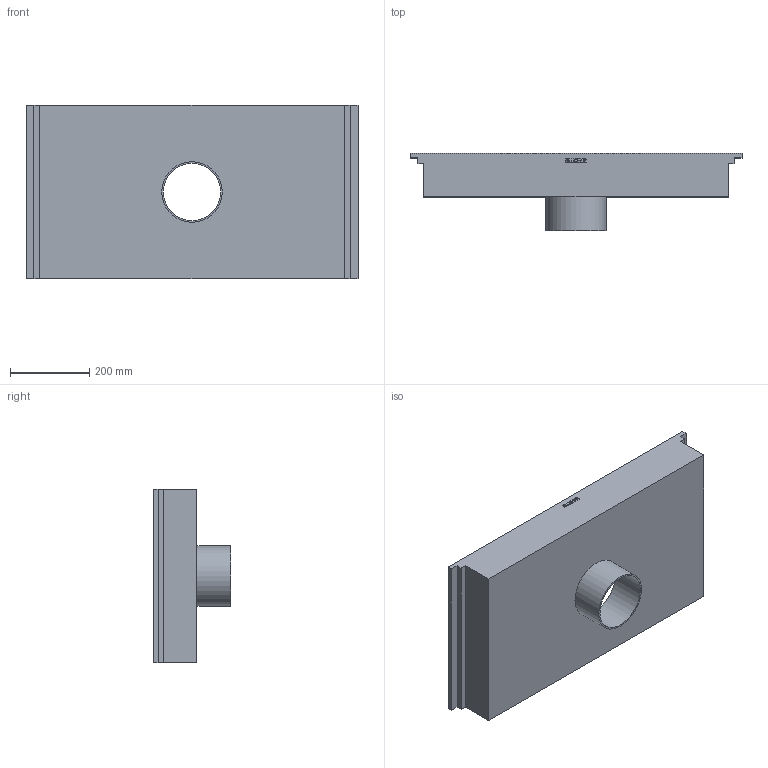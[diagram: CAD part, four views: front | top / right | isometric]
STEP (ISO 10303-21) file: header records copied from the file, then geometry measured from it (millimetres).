
FILE_DESCRIPTION((''),'2;1');
FILE_NAME('I:\WATTS\3D_CAD\3D_CAD_Models\Blucher_Drains\BKC_KitchenChannels\BKC-200\WebsiteFiles\3D\STEP\BKC-206-4.stp','2009-11-30T08:50:42',('menesek'),(''),'Autodesk Inventor 2010','Autodesk Inventor 2010','');
FILE_SCHEMA(('AUTOMOTIVE_DESIGN { 1 0 10303 214 1 1 1 1 }'));
Length unit declared in the file: inch
Products named in the file (1): BKC-206-4
Bounding box: 837 x 195 x 437 mm (x, y, z)
Volume: 5310810.4 mm3; surface area: 1293724.8 mm2
Topology: 1 solids, 1 shells, 142 faces, 385 edges, 257 vertices
Faces by surface type: plane 95, bspline 45, cylinder 2
Full cylindrical faces by diameter (mm): 144.4 x1, 152.4 x1
Entity records: 4799 total; most frequent: CARTESIAN_POINT 1501, ORIENTED_EDGE 764, DIRECTION 492, EDGE_CURVE 382, VECTOR 288, LINE 288, VERTEX_POINT 256, EDGE_LOOP 158
